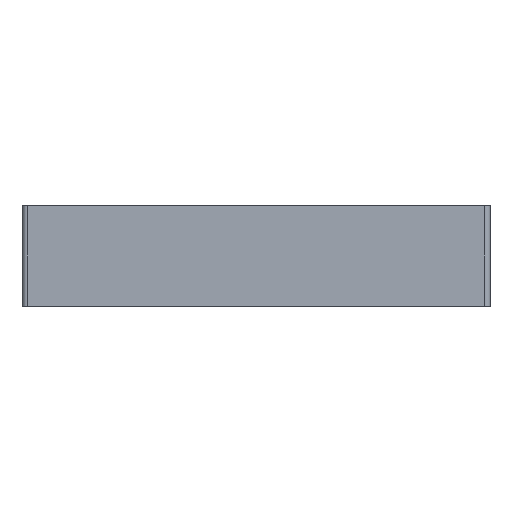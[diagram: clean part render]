
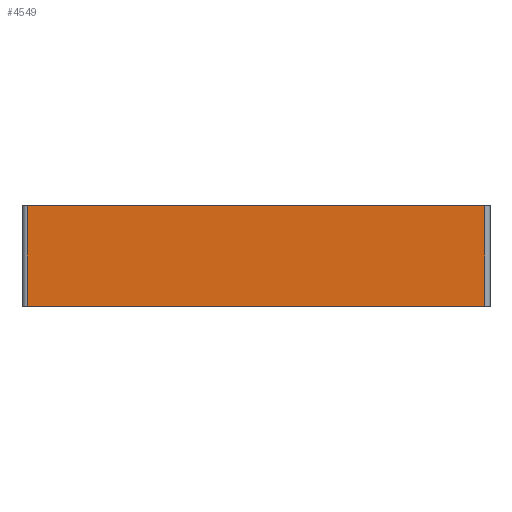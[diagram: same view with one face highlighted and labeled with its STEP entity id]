
A CAD part, left-side view. The second image highlights one B-rep face of the part: STEP entity #4549.
In plain terms, the highlighted planar face has unit normal (-1, 0, 0).
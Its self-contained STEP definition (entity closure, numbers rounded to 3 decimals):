
#44 = PLANE('',#45);
#45 = AXIS2_PLACEMENT_3D('',#46,#47,#48);
#46 = CARTESIAN_POINT('',(73.025,90.,0.));
#47 = DIRECTION('',(0.,0.,1.));
#48 = DIRECTION('',(1.,0.,-0.));
#72 = CYLINDRICAL_SURFACE('',#73,2.);
#73 = AXIS2_PLACEMENT_3D('',#74,#75,#76);
#74 = CARTESIAN_POINT('',(2.,2.,0.));
#75 = DIRECTION('',(-0.,-0.,-1.));
#76 = DIRECTION('',(-1.,0.,0.));
#100 = PLANE('',#101);
#101 = AXIS2_PLACEMENT_3D('',#102,#103,#104);
#102 = CARTESIAN_POINT('',(73.025,90.,38.5));
#103 = DIRECTION('',(0.,0.,1.));
#104 = DIRECTION('',(1.,0.,-0.));
#308 = VERTEX_POINT('',#309);
#309 = CARTESIAN_POINT('',(0.,178.,0.));
#324 = CYLINDRICAL_SURFACE('',#325,2.);
#325 = AXIS2_PLACEMENT_3D('',#326,#327,#328);
#326 = CARTESIAN_POINT('',(2.,178.,0.));
#327 = DIRECTION('',(-0.,-0.,-1.));
#328 = DIRECTION('',(0.,1.,-0.));
#336 = EDGE_CURVE('',#308,#337,#339,.T.);
#337 = VERTEX_POINT('',#338);
#338 = CARTESIAN_POINT('',(0.,2.,0.));
#339 = SURFACE_CURVE('',#340,(#344,#351),.PCURVE_S1.);
#340 = LINE('',#341,#342);
#341 = CARTESIAN_POINT('',(0.,178.,0.));
#342 = VECTOR('',#343,1.);
#343 = DIRECTION('',(0.,-1.,0.));
#344 = PCURVE('',#44,#345);
#345 = DEFINITIONAL_REPRESENTATION('',(#346),#350);
#346 = LINE('',#347,#348);
#347 = CARTESIAN_POINT('',(-73.025,88.));
#348 = VECTOR('',#349,1.);
#349 = DIRECTION('',(0.,-1.));
#350 = ( GEOMETRIC_REPRESENTATION_CONTEXT(2) 
PARAMETRIC_REPRESENTATION_CONTEXT() REPRESENTATION_CONTEXT('2D SPACE',''
  ) );
#351 = PCURVE('',#352,#357);
#352 = PLANE('',#353);
#353 = AXIS2_PLACEMENT_3D('',#354,#355,#356);
#354 = CARTESIAN_POINT('',(0.,178.,0.));
#355 = DIRECTION('',(1.,0.,0.));
#356 = DIRECTION('',(0.,-1.,0.));
#357 = DEFINITIONAL_REPRESENTATION('',(#358),#362);
#358 = LINE('',#359,#360);
#359 = CARTESIAN_POINT('',(0.,0.));
#360 = VECTOR('',#361,1.);
#361 = DIRECTION('',(1.,0.));
#362 = ( GEOMETRIC_REPRESENTATION_CONTEXT(2) 
PARAMETRIC_REPRESENTATION_CONTEXT() REPRESENTATION_CONTEXT('2D SPACE',''
  ) );
#638 = VERTEX_POINT('',#639);
#639 = CARTESIAN_POINT('',(0.,2.,38.5));
#661 = EDGE_CURVE('',#337,#638,#662,.T.);
#662 = SURFACE_CURVE('',#663,(#667,#674),.PCURVE_S1.);
#663 = LINE('',#664,#665);
#664 = CARTESIAN_POINT('',(0.,2.,0.));
#665 = VECTOR('',#666,1.);
#666 = DIRECTION('',(0.,0.,1.));
#667 = PCURVE('',#72,#668);
#668 = DEFINITIONAL_REPRESENTATION('',(#669),#673);
#669 = LINE('',#670,#671);
#670 = CARTESIAN_POINT('',(6.283,0.));
#671 = VECTOR('',#672,1.);
#672 = DIRECTION('',(-0.,-1.));
#673 = ( GEOMETRIC_REPRESENTATION_CONTEXT(2) 
PARAMETRIC_REPRESENTATION_CONTEXT() REPRESENTATION_CONTEXT('2D SPACE',''
  ) );
#674 = PCURVE('',#352,#675);
#675 = DEFINITIONAL_REPRESENTATION('',(#676),#680);
#676 = LINE('',#677,#678);
#677 = CARTESIAN_POINT('',(176.,0.));
#678 = VECTOR('',#679,1.);
#679 = DIRECTION('',(0.,-1.));
#680 = ( GEOMETRIC_REPRESENTATION_CONTEXT(2) 
PARAMETRIC_REPRESENTATION_CONTEXT() REPRESENTATION_CONTEXT('2D SPACE',''
  ) );
#685 = EDGE_CURVE('',#686,#638,#688,.T.);
#686 = VERTEX_POINT('',#687);
#687 = CARTESIAN_POINT('',(0.,178.,38.5));
#688 = SURFACE_CURVE('',#689,(#693,#700),.PCURVE_S1.);
#689 = LINE('',#690,#691);
#690 = CARTESIAN_POINT('',(0.,178.,38.5));
#691 = VECTOR('',#692,1.);
#692 = DIRECTION('',(0.,-1.,0.));
#693 = PCURVE('',#100,#694);
#694 = DEFINITIONAL_REPRESENTATION('',(#695),#699);
#695 = LINE('',#696,#697);
#696 = CARTESIAN_POINT('',(-73.025,88.));
#697 = VECTOR('',#698,1.);
#698 = DIRECTION('',(0.,-1.));
#699 = ( GEOMETRIC_REPRESENTATION_CONTEXT(2) 
PARAMETRIC_REPRESENTATION_CONTEXT() REPRESENTATION_CONTEXT('2D SPACE',''
  ) );
#700 = PCURVE('',#352,#701);
#701 = DEFINITIONAL_REPRESENTATION('',(#702),#706);
#702 = LINE('',#703,#704);
#703 = CARTESIAN_POINT('',(0.,-38.5));
#704 = VECTOR('',#705,1.);
#705 = DIRECTION('',(1.,0.));
#706 = ( GEOMETRIC_REPRESENTATION_CONTEXT(2) 
PARAMETRIC_REPRESENTATION_CONTEXT() REPRESENTATION_CONTEXT('2D SPACE',''
  ) );
#4527 = EDGE_CURVE('',#308,#686,#4528,.T.);
#4528 = SURFACE_CURVE('',#4529,(#4533,#4540),.PCURVE_S1.);
#4529 = LINE('',#4530,#4531);
#4530 = CARTESIAN_POINT('',(0.,178.,0.));
#4531 = VECTOR('',#4532,1.);
#4532 = DIRECTION('',(0.,0.,1.));
#4533 = PCURVE('',#324,#4534);
#4534 = DEFINITIONAL_REPRESENTATION('',(#4535),#4539);
#4535 = LINE('',#4536,#4537);
#4536 = CARTESIAN_POINT('',(4.712,0.));
#4537 = VECTOR('',#4538,1.);
#4538 = DIRECTION('',(-0.,-1.));
#4539 = ( GEOMETRIC_REPRESENTATION_CONTEXT(2) 
PARAMETRIC_REPRESENTATION_CONTEXT() REPRESENTATION_CONTEXT('2D SPACE',''
  ) );
#4540 = PCURVE('',#352,#4541);
#4541 = DEFINITIONAL_REPRESENTATION('',(#4542),#4546);
#4542 = LINE('',#4543,#4544);
#4543 = CARTESIAN_POINT('',(0.,0.));
#4544 = VECTOR('',#4545,1.);
#4545 = DIRECTION('',(0.,-1.));
#4546 = ( GEOMETRIC_REPRESENTATION_CONTEXT(2) 
PARAMETRIC_REPRESENTATION_CONTEXT() REPRESENTATION_CONTEXT('2D SPACE',''
  ) );
#4549 = ADVANCED_FACE('',(#4550),#352,.F.);
#4550 = FACE_BOUND('',#4551,.F.);
#4551 = EDGE_LOOP('',(#4552,#4553,#4554,#4555));
#4552 = ORIENTED_EDGE('',*,*,#4527,.T.);
#4553 = ORIENTED_EDGE('',*,*,#685,.T.);
#4554 = ORIENTED_EDGE('',*,*,#661,.F.);
#4555 = ORIENTED_EDGE('',*,*,#336,.F.);
